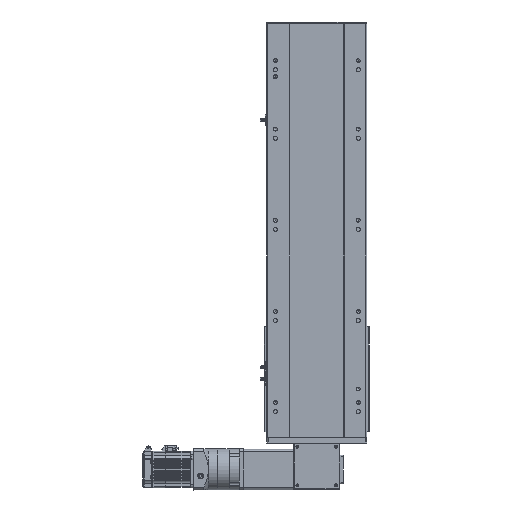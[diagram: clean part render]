
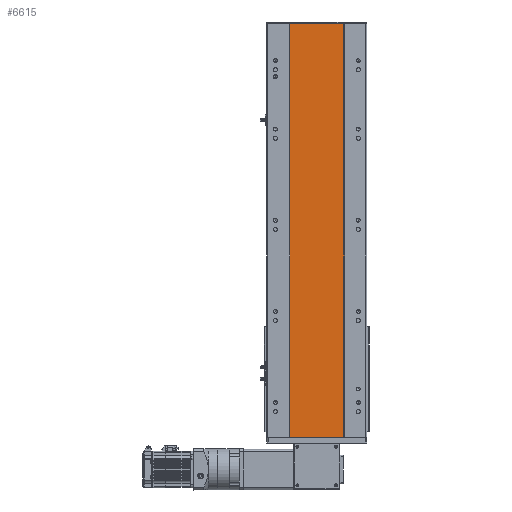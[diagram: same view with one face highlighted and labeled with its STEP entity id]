
A CAD part, front view. The second image highlights one B-rep face of the part: STEP entity #6615.
In plain terms, the highlighted planar face has unit normal (0, -1, 0).
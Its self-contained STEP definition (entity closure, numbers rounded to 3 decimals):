
#796 = AXIS2_PLACEMENT_3D ( 'NONE', #47198, #41934, #18757 ) ;
#1756 = FACE_OUTER_BOUND ( 'NONE', #38656, .T. ) ;
#6615 = ADVANCED_FACE ( 'NONE', ( #1756 ), #24812, .F. ) ;
#6621 = LINE ( 'NONE', #17961, #29085 ) ;
#8731 = LINE ( 'NONE', #65151, #18432 ) ;
#9636 = ORIENTED_EDGE ( 'NONE', *, *, #69638, .F. ) ;
#11619 = VERTEX_POINT ( 'NONE', #14796 ) ;
#11625 = CARTESIAN_POINT ( 'NONE',  ( 0., 155.016, 0. ) ) ;
#12248 = CARTESIAN_POINT ( 'NONE',  ( 432.408, 155.016, 0. ) ) ;
#12632 = EDGE_CURVE ( 'NONE', #32313, #20580, #74837, .T. ) ;
#13965 = EDGE_CURVE ( 'NONE', #11619, #69741, #6621, .T. ) ;
#14796 = CARTESIAN_POINT ( 'NONE',  ( 432.408, 155.016, 907. ) ) ;
#16356 = DIRECTION ( 'NONE',  ( 0., 0., -1. ) ) ;
#17378 = EDGE_CURVE ( 'NONE', #11619, #32313, #8731, .T. ) ;
#17551 = ORIENTED_EDGE ( 'NONE', *, *, #12632, .T. ) ;
#17961 = CARTESIAN_POINT ( 'NONE',  ( 0., 155.016, 907. ) ) ;
#18432 = VECTOR ( 'NONE', #48484, 1000. ) ;
#18757 = DIRECTION ( 'NONE',  ( 0., 0., 1. ) ) ;
#20580 = VERTEX_POINT ( 'NONE', #55781 ) ;
#24812 = PLANE ( 'NONE',  #796 ) ;
#27718 = CARTESIAN_POINT ( 'NONE',  ( 551.58, 155.016, 907. ) ) ;
#29085 = VECTOR ( 'NONE', #41140, 1000. ) ;
#32313 = VERTEX_POINT ( 'NONE', #12248 ) ;
#34778 = DIRECTION ( 'NONE',  ( 1., 0., 0. ) ) ;
#35098 = ORIENTED_EDGE ( 'NONE', *, *, #17378, .T. ) ;
#38656 = EDGE_LOOP ( 'NONE', ( #17551, #9636, #71800, #35098 ) ) ;
#41140 = DIRECTION ( 'NONE',  ( 1., 0., 0. ) ) ;
#41934 = DIRECTION ( 'NONE',  ( 0., 1., 0. ) ) ;
#47198 = CARTESIAN_POINT ( 'NONE',  ( 0., 155.016, 907. ) ) ;
#48484 = DIRECTION ( 'NONE',  ( 0., 0., -1. ) ) ;
#51932 = LINE ( 'NONE', #27718, #70042 ) ;
#55781 = CARTESIAN_POINT ( 'NONE',  ( 551.58, 155.016, 0. ) ) ;
#64787 = CARTESIAN_POINT ( 'NONE',  ( 551.58, 155.016, 907. ) ) ;
#65151 = CARTESIAN_POINT ( 'NONE',  ( 432.408, 155.016, 907. ) ) ;
#69638 = EDGE_CURVE ( 'NONE', #69741, #20580, #51932, .T. ) ;
#69741 = VERTEX_POINT ( 'NONE', #64787 ) ;
#70042 = VECTOR ( 'NONE', #16356, 1000. ) ;
#71585 = VECTOR ( 'NONE', #34778, 1000. ) ;
#71800 = ORIENTED_EDGE ( 'NONE', *, *, #13965, .F. ) ;
#74837 = LINE ( 'NONE', #11625, #71585 ) ;
